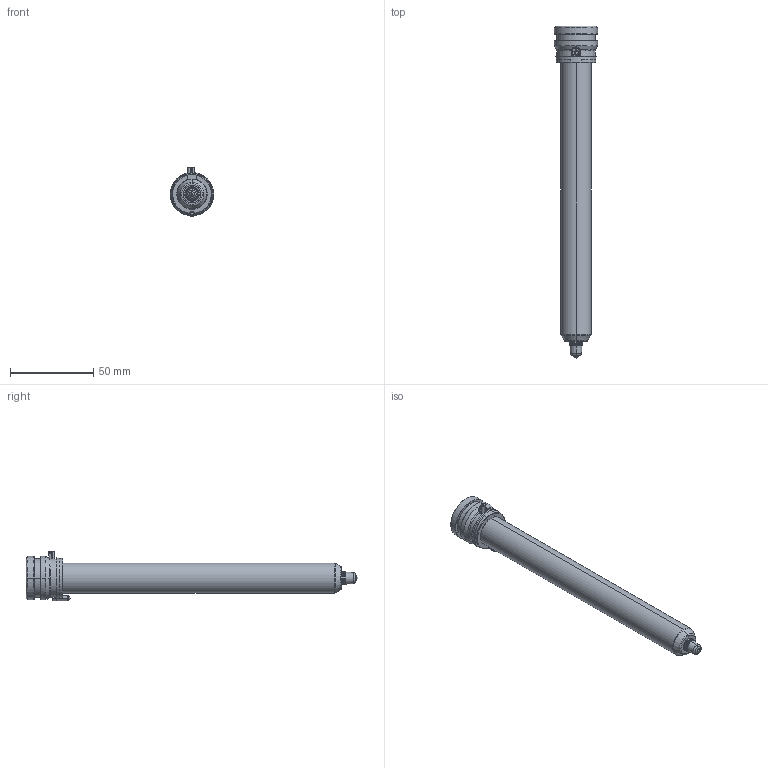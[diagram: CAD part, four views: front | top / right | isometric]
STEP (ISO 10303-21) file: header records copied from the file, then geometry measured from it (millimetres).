
FILE_DESCRIPTION((''),'2;1');
FILE_NAME('TH18181-A-1B50-PK-JG','2023-12-14T',('umhib'),('Thermoplay S.p.A.'),'PRO/ENGINEER BY PARAMETRIC TECHNOLOGY CORPORATION, 2017170','PRO/ENGINEER BY PARAMETRIC TECHNOLOGY CORPORATION, 2017170','');
FILE_SCHEMA(('CONFIG_CONTROL_DESIGN'));
Length unit declared in the file: millimetre
Products named in the file (1): TH18181-A-1B50-PK-JG
Bounding box: 26 x 199 x 29.5 mm (x, y, z)
Volume: 38596.8 mm3; surface area: 28162 mm2
Topology: 1 solids, 2 shells, 394 faces, 1026 edges, 637 vertices
Faces by surface type: cylinder 151, plane 85, cone 66, torus 54, bspline 24, sphere 12, extrusion 2
Entity records: 17996 total; most frequent: CARTESIAN_POINT 6173, ORIENTED_EDGE 2028, DIRECTION 2015, EDGE_CURVE 1016, AXIS2_PLACEMENT_3D 808, VERTEX_POINT 637, CIRCLE 439, EDGE_LOOP 414
